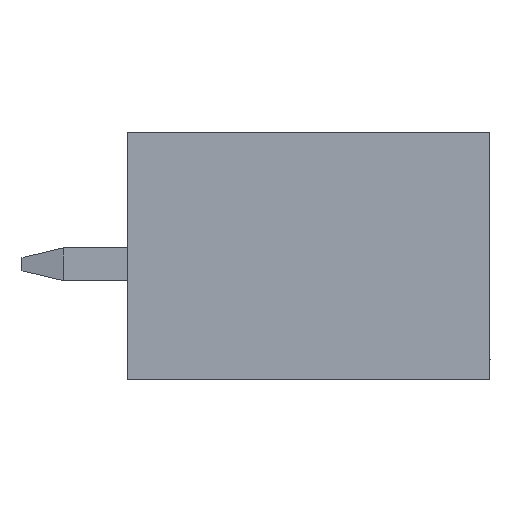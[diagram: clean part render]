
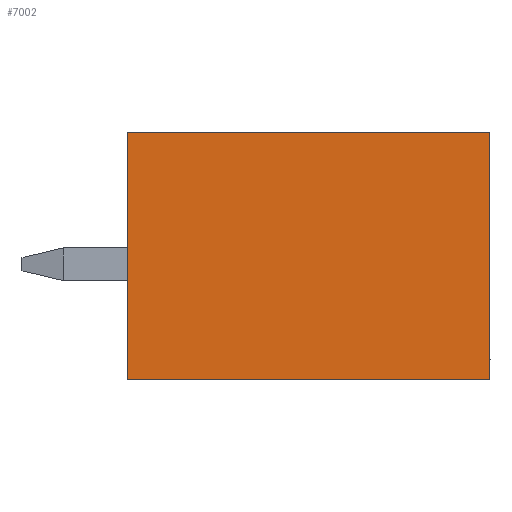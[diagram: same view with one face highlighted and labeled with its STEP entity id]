
A CAD part, left-side view. The second image highlights one B-rep face of the part: STEP entity #7002.
In plain terms, the highlighted planar face has unit normal (-1, 0, 0).
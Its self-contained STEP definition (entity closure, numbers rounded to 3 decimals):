
#796=DIRECTION('',(0.,-1.,0.));
#797=VECTOR('',#796,11.);
#798=CARTESIAN_POINT('',(13.55,11.037,-7.5));
#799=LINE('',#798,#797);
#1038=DIRECTION('',(0.,0.,1.));
#1039=VECTOR('',#1038,7.5);
#1040=CARTESIAN_POINT('',(13.55,11.037,-7.5));
#1041=LINE('',#1040,#1039);
#1042=DIRECTION('',(0.,-1.,0.));
#1043=VECTOR('',#1042,11.);
#1044=CARTESIAN_POINT('',(13.55,11.037,0.));
#1045=LINE('',#1044,#1043);
#1050=DIRECTION('',(0.,0.,1.));
#1051=VECTOR('',#1050,7.5);
#1052=CARTESIAN_POINT('',(13.55,0.037,-7.5));
#1053=LINE('',#1052,#1051);
#4500=CARTESIAN_POINT('',(13.55,0.037,0.));
#4501=VERTEX_POINT('',#4500);
#4502=CARTESIAN_POINT('',(13.55,11.037,0.));
#4503=VERTEX_POINT('',#4502);
#4689=CARTESIAN_POINT('',(13.55,0.037,-7.5));
#4691=VERTEX_POINT('',#4689);
#4762=CARTESIAN_POINT('',(13.55,11.037,-7.5));
#4763=VERTEX_POINT('',#4762);
#6990=CARTESIAN_POINT('',(13.55,11.037,-7.5));
#6991=DIRECTION('',(-1.,0.,0.));
#6992=DIRECTION('',(0.,-1.,0.));
#6993=AXIS2_PLACEMENT_3D('',#6990,#6991,#6992);
#6994=PLANE('',#6993);
#6995=ORIENTED_EDGE('',*,*,#6676,.F.);
#6996=ORIENTED_EDGE('',*,*,#6978,.T.);
#6997=ORIENTED_EDGE('',*,*,#5689,.T.);
#6999=ORIENTED_EDGE('',*,*,#6998,.F.);
#7000=EDGE_LOOP('',(#6995,#6996,#6997,#6999));
#7001=FACE_OUTER_BOUND('',#7000,.F.);
#7002=ADVANCED_FACE('',(#7001),#6994,.T.);
#5689=EDGE_CURVE('',#4503,#4501,#1045,.T.);
#6676=EDGE_CURVE('',#4763,#4691,#799,.T.);
#6978=EDGE_CURVE('',#4763,#4503,#1041,.T.);
#6998=EDGE_CURVE('',#4691,#4501,#1053,.T.);
